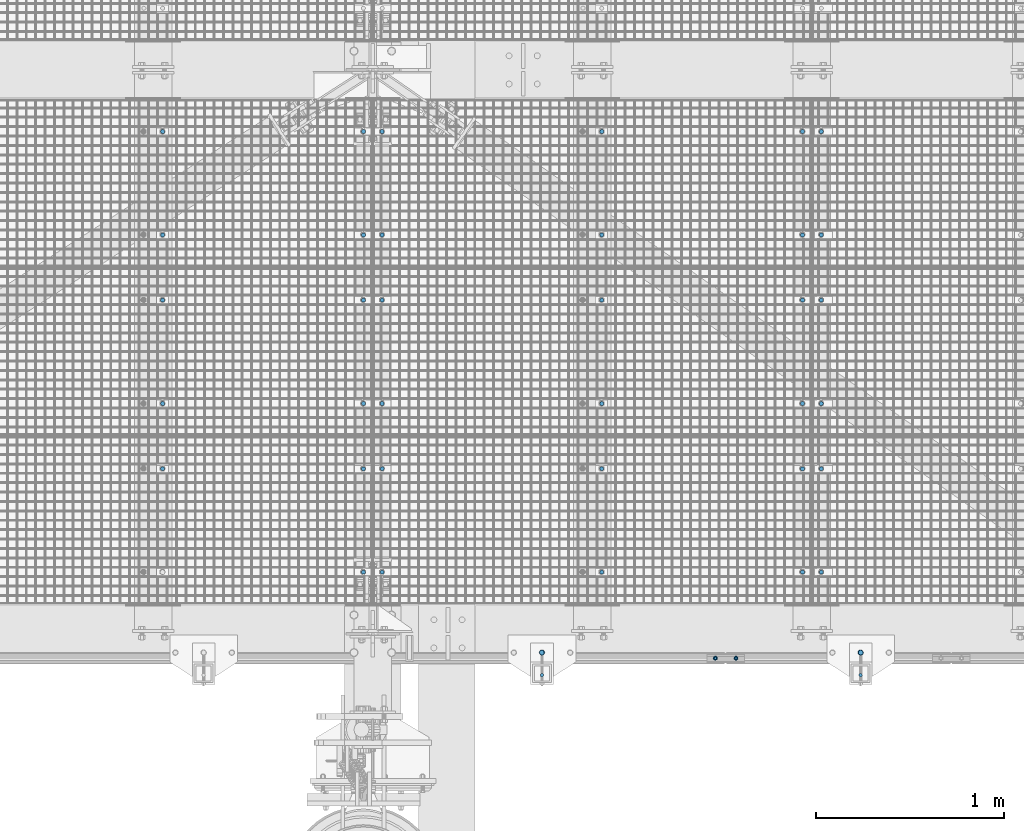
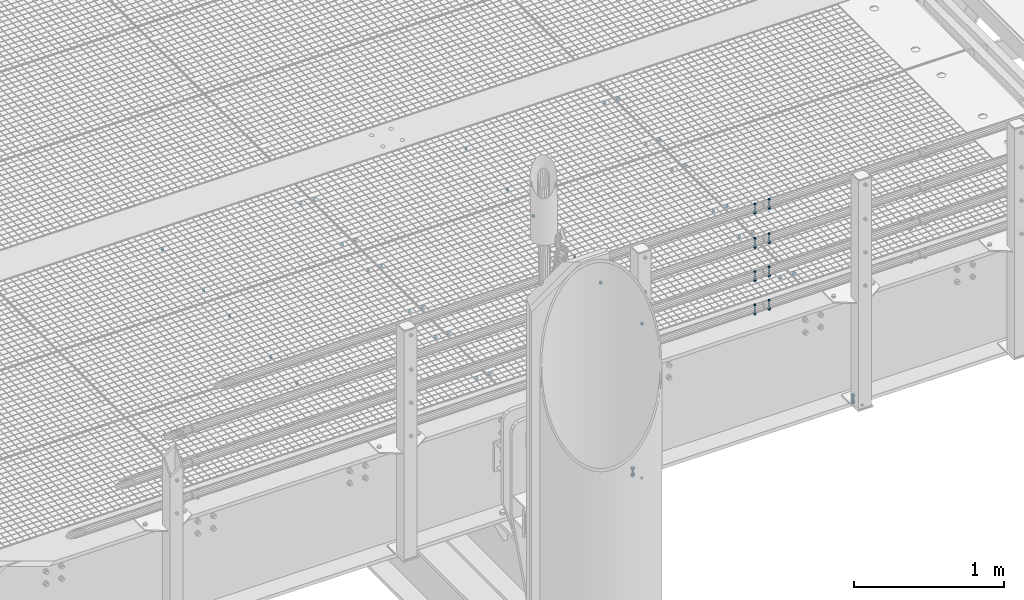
# One storey, part 67 of 1530: 47 mechanical fasteners.
"""IFC2X3 building model written with IfcOpenShell, lengths in millimetres."""

from ifc_helpers import new_model, si_unit, frame, origin_with_axes, place, context, subcontext, project, spatial, faceted_brep, source, transform, mapped, material, type_object, element, save


model = new_model("IFC2X3")

# Units and contexts
model_context = context("Model", 3, precision=1e-05, world=origin_with_axes())
body_context = subcontext(model_context, "Body", "Model", "MODEL_VIEW")
ifc_project = project(units=[si_unit("LENGTHUNIT", "METRE", prefix="MILLI"), si_unit("AREAUNIT", "SQUARE_METRE"), si_unit("VOLUMEUNIT", "CUBIC_METRE"), si_unit("MASSUNIT", "GRAM", prefix="KILO"), si_unit("TIMEUNIT", "SECOND"), si_unit("PLANEANGLEUNIT", "RADIAN"), si_unit("SOLIDANGLEUNIT", "STERADIAN"), si_unit("THERMODYNAMICTEMPERATUREUNIT", "DEGREE_CELSIUS"), si_unit("LUMINOUSINTENSITYUNIT", "LUMEN")], contexts=[model_context])

# Site, building, storey
site_placement = place(None, origin_with_axes())
site = spatial("IfcSite", under=ifc_project, at=site_placement, Name="Brattvåg", CompositionType="ELEMENT")
building_placement = place(site_placement, origin_with_axes())
building = spatial("IfcBuilding", under=site, at=building_placement, Name="Undefined", CompositionType="ELEMENT")
storey_placement = place(building_placement, origin_with_axes())
storey = spatial("IfcBuildingStorey", under=building, at=storey_placement, Name="Undefined", CompositionType="ELEMENT", Elevation=0.0)

# Mechanical fasteners
ifc_material = material(Name="8")
mechanical_fastener_type = type_object("IfcMechanicalFastenerType", Name="Bolt assembly")
shared_shape_1 = source(origin_with_axes(), body_context, "Body", "Brep", [
    faceted_brep([(11.0, -4.99999999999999, 0.0), (9.52627944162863, -4.99999999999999, 5.50000000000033), (5.49999999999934, -4.99999999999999, 9.5262794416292), (-1.13996957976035e-12, -4.99999999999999, 11.0), (-5.50000000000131, -4.99999999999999, 9.52627944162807), (-9.52627944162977, -4.99999999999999, 5.49999999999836), (-11.0, -4.99999999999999, -2.27993915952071e-12), (-9.5262794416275, -4.99999999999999, -5.5000000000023), (-5.49999999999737, -4.99999999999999, -9.52627944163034), (3.40769628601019e-12, -4.99999999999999, -11.0), (5.50000000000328, -4.99999999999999, -9.52627944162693), (9.52627944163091, -4.99999999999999, -5.49999999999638), (9.52627944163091, 10.1, -5.49999999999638), (5.50000000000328, 10.1, -9.52627944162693), (3.40769628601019e-12, 10.1, -11.0), (-5.49999999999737, 10.1, -9.52627944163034), (-9.5262794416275, 10.1, -5.5000000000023), (-11.0, 10.1, -2.27993915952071e-12), (-9.52627944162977, 10.1, 5.49999999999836), (-5.50000000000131, 10.1, 9.52627944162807), (-1.13996957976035e-12, 10.1, 11.0), (5.49999999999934, 10.1, 9.5262794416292), (9.52627944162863, 10.1, 5.50000000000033), (11.0, 10.1, 0.0)], [[[0, 1, 2, 3, 4, 5, 6, 7, 8, 9, 10, 11]], [[12, 13, 14, 15, 16, 17, 18, 19, 20, 21, 22, 23]], [[0, 23, 22, 1]], [[1, 22, 21, 2]], [[2, 21, 20, 3]], [[3, 20, 19, 4]], [[4, 19, 18, 5]], [[5, 18, 17, 6]], [[6, 17, 16, 7]], [[7, 16, 15, 8]], [[8, 15, 14, 9]], [[9, 14, 13, 10]], [[10, 13, 12, 11]], [[11, 12, 23, 0]]]),
])
for number, where, z_axis, x_axis, name in (
    (1, (14636.0047793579, 2121.91931152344, -35.0), (0.0, 1.0, 0.0), (1.0, 0.0, 0.0), "Bolt assembly"),
    (2, (14636.0047793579, 2671.99411010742, -35.0), (0.0, 1.0, 0.0), (1.0, 0.0, 0.0), "Bolt assembly"),
    (3, (14636.0047793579, 1224.91931152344, -35.0), (0.0, 1.0, 0.0), (1.0, 0.0, 0.0), "Bolt assembly"),
    (4, (14636.0047793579, 1774.99411010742, -35.0), (0.0, 1.0, 0.0), (1.0, 0.0, 0.0), "Bolt assembly"),
    (5, (14636.0047793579, 327.919311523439, -35.0), (0.0, 1.0, 0.0), (1.0, 0.0, 0.0), "Bolt assembly"),
    (6, (14636.0047793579, 877.994110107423, -35.0), (0.0, 1.0, 0.0), (1.0, 0.0, 0.0), "Bolt assembly"),
    (7, (12300.0047793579, 2121.98931152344, -35.0), (0.0, 1.0, 0.0), (1.0, 0.0, 0.0), "Bolt assembly"),
    (8, (12300.0047793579, 2671.99411010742, -35.0), (0.0, 1.0, 0.0), (1.0, 0.0, 0.0), "Bolt assembly"),
    (9, (14536.0148773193, 2671.99411010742, -35.0), (0.0, -1.0, 0.0), (-1.0, 1.99999855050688e-09, 0.0), "Bolt assembly"),
    (10, (14536.0148773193, 2121.9904864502, -35.0), (0.0, -1.0, 0.0), (-1.0, 1.99999855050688e-09, 0.0), "Bolt assembly"),
    (11, (13468.0145606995, 2671.99565124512, -35.0), (0.0, -1.0, 0.0), (-1.0, 1.99999855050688e-09, 0.0), "Bolt assembly"),
    (12, (13468.0119254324, 2121.99, -35.0), (0.0, -1.0, 0.0), (-1.0, 1.99999855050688e-09, 0.0), "Bolt assembly"),
    (13, (12300.0047793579, 1224.98931152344, -35.0), (0.0, 1.0, 0.0), (1.0, 0.0, 0.0), "Bolt assembly"),
    (14, (12300.0047793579, 1774.99411010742, -35.0), (0.0, 1.0, 0.0), (1.0, 0.0, 0.0), "Bolt assembly"),
    (15, (14536.0148773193, 1774.99411010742, -35.0), (0.0, -1.0, 0.0), (-1.0, 1.99999855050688e-09, 0.0), "Bolt assembly"),
    (16, (14536.0148773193, 1224.9904864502, -35.0), (0.0, -1.0, 0.0), (-1.0, 1.99999855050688e-09, 0.0), "Bolt assembly"),
    (17, (13468.0145606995, 1774.99565124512, -35.0), (0.0, -1.0, 0.0), (-1.0, 1.99999855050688e-09, 0.0), "Bolt assembly"),
    (18, (13468.0119254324, 1224.99, -35.0), (0.0, -1.0, 0.0), (-1.0, 1.99999855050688e-09, 0.0), "Bolt assembly"),
    (19, (12300.0047793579, 327.989311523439, -35.0), (0.0, 1.0, 0.0), (1.0, 0.0, 0.0), "Bolt assembly"),
    (20, (12300.0047793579, 877.994110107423, -35.0), (0.0, 1.0, 0.0), (1.0, 0.0, 0.0), "Bolt assembly"),
    (21, (14536.0148773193, 877.994110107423, -35.0), (0.0, -1.0, 0.0), (-1.0, 1.99999855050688e-09, 0.0), "Bolt assembly"),
    (22, (14536.0148773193, 327.990486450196, -35.0), (0.0, -1.0, 0.0), (-1.0, 1.99999855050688e-09, 0.0), "Bolt assembly"),
    (23, (13468.0145606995, 877.995651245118, -35.0), (0.0, -1.0, 0.0), (-1.0, 1.99999855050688e-09, 0.0), "Bolt assembly"),
    (24, (13468.0119254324, 327.99, -35.0), (0.0, -1.0, 0.0), (-1.0, 1.99999855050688e-09, 0.0), "Bolt assembly"),
    (25, (12200.0148773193, 2671.99411010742, -35.0), (0.0, -1.0, 0.0), (-1.0, 1.99999855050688e-09, 0.0), "Bolt assembly"),
    (26, (12200.0148773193, 2121.9904864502, -35.0), (0.0, -1.0, 0.0), (-1.0, 1.99999855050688e-09, 0.0), "Bolt assembly"),
    (27, (11132.0145606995, 2671.99565124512, -35.0), (0.0, -1.0, 0.0), (-1.0, 1.99999855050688e-09, 0.0), "Bolt assembly"),
    (28, (11132.0119254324, 2121.99, -35.0), (0.0, -1.0, 0.0), (-1.0, 1.99999855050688e-09, 0.0), "Bolt assembly"),
    (29, (12200.0148773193, 1774.99411010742, -35.0), (0.0, -1.0, 0.0), (-1.0, 1.99999855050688e-09, 0.0), "Bolt assembly"),
    (30, (12200.0148773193, 1224.9904864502, -35.0), (0.0, -1.0, 0.0), (-1.0, 1.99999855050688e-09, 0.0), "Bolt assembly"),
    (31, (11132.0145606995, 1774.99565124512, -35.0), (0.0, -1.0, 0.0), (-1.0, 1.99999855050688e-09, 0.0), "Bolt assembly"),
    (32, (11132.0119254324, 1224.99, -35.0), (0.0, -1.0, 0.0), (-1.0, 1.99999855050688e-09, 0.0), "Bolt assembly"),
    (33, (12200.0148773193, 877.994110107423, -35.0), (0.0, -1.0, 0.0), (-1.0, 1.99999855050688e-09, 0.0), "Bolt assembly"),
    (34, (12200.0148773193, 327.990486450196, -35.0), (0.0, -1.0, 0.0), (-1.0, 1.99999855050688e-09, 0.0), "Bolt assembly"),
    (35, (11132.0145606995, 877.995651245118, -35.0), (0.0, -1.0, 0.0), (-1.0, 1.99999855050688e-09, 0.0), "Bolt assembly"),
):
    element("IfcMechanicalFastener", number, at=place(storey_placement, frame(where, z_axis=z_axis, x_axis=x_axis)), inside=storey, type_object=mechanical_fastener_type, material=ifc_material, Name=name, NominalDiameter=20.0, NominalLength=15.0, context=body_context, shape_type="MappedRepresentation", body=[
        mapped(shared_shape_1, transform((0.0, 0.0, 0.0))),
    ])
shared_shape_2 = source(origin_with_axes(), body_context, "Body", "Brep", [
    faceted_brep([(9.0, -0.000108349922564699, 0.0), (7.79422863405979, -0.000108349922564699, 4.50000000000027), (4.49999999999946, -0.000108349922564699, 7.79422863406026), (-9.3270238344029e-13, -0.000108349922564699, 9.0), (-4.50000000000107, -0.000108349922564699, 7.79422863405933), (-7.79422863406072, -0.000108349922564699, 4.49999999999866), (-9.0, -0.000108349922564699, -1.86540476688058e-12), (-7.79422863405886, -0.000108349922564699, -4.50000000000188), (-4.49999999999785, -0.000108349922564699, -7.79422863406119), (2.78811514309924e-12, -0.000108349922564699, -9.0), (4.50000000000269, -0.000108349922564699, -7.7942286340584), (7.79422863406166, -0.000108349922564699, -4.49999999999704), (7.79422863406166, 10.0998916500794, -4.49999999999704), (4.50000000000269, 10.0998916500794, -7.7942286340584), (2.78811514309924e-12, 10.0998916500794, -9.0), (-4.49999999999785, 10.0998916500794, -7.79422863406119), (-7.79422863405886, 10.0998916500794, -4.50000000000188), (-9.0, 10.0998916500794, -1.86540476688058e-12), (-7.79422863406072, 10.0998916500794, 4.49999999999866), (-4.50000000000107, 10.0998916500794, 7.79422863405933), (-9.3270238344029e-13, 10.0998916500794, 9.0), (4.49999999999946, 10.0998916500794, 7.79422863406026), (7.79422863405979, 10.0998916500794, 4.50000000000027), (9.0, 10.0998916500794, 0.0)], [[[0, 1, 2, 3, 4, 5, 6, 7, 8, 9, 10, 11]], [[12, 13, 14, 15, 16, 17, 18, 19, 20, 21, 22, 23]], [[0, 23, 22, 1]], [[1, 22, 21, 2]], [[2, 21, 20, 3]], [[3, 20, 19, 4]], [[4, 19, 18, 5]], [[5, 18, 17, 6]], [[6, 17, 16, 7]], [[7, 16, 15, 8]], [[8, 15, 14, 9]], [[9, 14, 13, 10]], [[10, 13, 12, 11]], [[11, 12, 23, 0]]]),
])
for number, where, z_axis, x_axis, name in (
    (36, (14845.0001602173, -219.999950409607, -845.000278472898), (-1.0, 1.99999855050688e-09, 0.0), (0.0, 0.999999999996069, 2.80400000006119e-06), "Bolt assembly"),
    (37, (13150.0001602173, -219.999950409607, -845.000278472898), (-1.0, 1.99999855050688e-09, 0.0), (0.0, 0.999999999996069, 2.80400000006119e-06), "Bolt assembly"),
):
    element("IfcMechanicalFastener", number, at=place(storey_placement, frame(where, z_axis=z_axis, x_axis=x_axis)), inside=storey, type_object=mechanical_fastener_type, material=ifc_material, Name=name, NominalDiameter=16.0, NominalLength=10.0001087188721, context=body_context, shape_type="MappedRepresentation", body=[
        mapped(shared_shape_2, transform((0.0, 0.0, 0.0))),
    ])
shared_shape_3 = source(origin_with_axes(), body_context, "Body", "Brep", [
    faceted_brep([(6.49435320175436, -7.50000000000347, 0.0), (4.59220118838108, -7.50000000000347, 4.59220118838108), (3.97664443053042e-16, -7.50000000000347, 6.49435320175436), (-4.59220118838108, -7.50000000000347, 4.59220118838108), (-6.49435320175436, -7.50000000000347, 7.95328886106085e-16), (-4.59220118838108, -7.50000000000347, -4.59220118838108), (-1.19299332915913e-15, -7.50000000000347, -6.49435320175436), (4.59220118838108, -7.50000000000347, -4.59220118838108), (7.34846922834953, -3.46744855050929e-12, -7.34846922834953), (-1.90903542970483e-15, -3.46744855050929e-12, -10.3923048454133), (-7.34846922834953, -3.46744855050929e-12, -7.34846922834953), (-10.3923048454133, 3.46808519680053e-07, 1.27269028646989e-15), (-7.34846922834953, -3.46744855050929e-12, 7.34846922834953), (6.36345143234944e-16, -3.46744855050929e-12, 10.3923048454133), (7.34846922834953, -3.46744855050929e-12, 7.34846922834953), (10.3923048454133, 3.46808519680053e-07, 0.0), (6.0, 3.46808519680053e-07, 0.0), (5.19615242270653, 3.46808519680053e-07, 3.00000000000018), (2.99999999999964, 3.46808519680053e-07, 5.19615242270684), (-6.21801588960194e-13, 3.46808519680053e-07, 6.0), (-3.00000000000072, 3.46808519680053e-07, 5.19615242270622), (-5.19615242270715, 3.46808519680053e-07, 2.9999999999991), (-6.0, 3.46808519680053e-07, -1.24360317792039e-12), (-5.19615242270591, 3.46808519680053e-07, -3.00000000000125), (-2.99999999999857, 3.46808519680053e-07, -5.19615242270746), (1.85874342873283e-12, 3.46808519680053e-07, -6.0), (3.00000000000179, 3.46808519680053e-07, -5.1961524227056), (5.19615242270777, 3.46808519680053e-07, -2.99999999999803), (5.19615242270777, 79.9999999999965, -2.99999999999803), (3.00000000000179, 79.9999999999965, -5.1961524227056), (1.85874342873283e-12, 79.9999999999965, -6.0), (-2.99999999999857, 79.9999999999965, -5.19615242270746), (-5.19615242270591, 79.9999999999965, -3.00000000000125), (-6.0, 79.9999999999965, -1.24360317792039e-12), (-5.19615242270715, 79.9999999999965, 2.9999999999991), (-3.00000000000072, 79.9999999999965, 5.19615242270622), (-6.21801588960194e-13, 79.9999999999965, 6.0), (2.99999999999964, 79.9999999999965, 5.19615242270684), (5.19615242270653, 79.9999999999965, 3.00000000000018), (6.0, 79.9999999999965, 0.0), (12.0, 60.2988956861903, 0.0), (10.3923048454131, 60.2988956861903, 6.00000000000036), (5.99999999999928, 60.2988956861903, 10.3923048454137), (-1.24360317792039e-12, 60.2988956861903, 12.0), (-6.00000000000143, 60.2988956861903, 10.3923048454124), (-10.3923048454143, 60.2988956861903, 5.99999999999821), (-12.0, 60.2988956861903, -2.48720635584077e-12), (-10.3923048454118, 60.2988956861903, -6.00000000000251), (-5.99999999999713, 60.2988956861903, -10.3923048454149), (3.71748685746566e-12, 60.2988956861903, -12.0), (6.00000000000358, 60.2988956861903, -10.3923048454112), (10.3923048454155, 60.2988956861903, -5.99999999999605), (10.3923048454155, 62.7988956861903, -5.99999999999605), (6.00000000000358, 62.7988956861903, -10.3923048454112), (3.71748685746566e-12, 62.7988956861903, -12.0), (-5.99999999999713, 62.7988956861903, -10.3923048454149), (-10.3923048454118, 62.7988956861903, -6.00000000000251), (-12.0, 62.7988956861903, -2.48720635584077e-12), (-10.3923048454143, 62.7988956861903, 5.99999999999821), (-6.00000000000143, 62.7988956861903, 10.3923048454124), (-1.24360317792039e-12, 62.7988956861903, 12.0), (5.99999999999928, 62.7988956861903, 10.3923048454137), (10.3923048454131, 62.7988956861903, 6.00000000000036), (12.0, 62.7988956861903, 0.0), (10.9696551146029, 62.7988956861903, 0.0), (5.48482755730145, 62.7988956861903, 9.5), (-5.48482755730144, 62.7988956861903, 9.5), (-10.9696551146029, 62.7988956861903, 1.34339530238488e-15), (-5.48482755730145, 62.7988956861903, -9.5), (5.48482755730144, 62.7988956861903, -9.5), (5.48482755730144, 73.5988958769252, -9.5), (-5.48482755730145, 73.5988958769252, -9.5), (-10.9696551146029, 73.5988958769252, 1.34339530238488e-15), (-5.48482755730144, 73.5988958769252, 9.5), (5.48482755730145, 73.5988958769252, 9.5), (10.9696551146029, 73.5988958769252, 0.0)], [[[0, 1, 2, 3, 4, 5, 6, 7]], [[8, 9, 10, 11, 12, 13, 14, 15]], [[0, 15, 14, 1]], [[1, 14, 13, 2]], [[2, 13, 12, 3]], [[3, 12, 11, 4]], [[4, 11, 10, 5]], [[5, 10, 9, 6]], [[6, 9, 8, 7]], [[7, 8, 15, 0]], [[16, 17, 18, 19, 20, 21, 22, 23, 24, 25, 26, 27]], [[28, 29, 30, 31, 32, 33, 34, 35, 36, 37, 38, 39]], [[16, 39, 38, 17]], [[17, 38, 37, 18]], [[18, 37, 36, 19]], [[19, 36, 35, 20]], [[20, 35, 34, 21]], [[21, 34, 33, 22]], [[22, 33, 32, 23]], [[23, 32, 31, 24]], [[24, 31, 30, 25]], [[25, 30, 29, 26]], [[26, 29, 28, 27]], [[27, 28, 39, 16]], [[40, 41, 42, 43, 44, 45, 46, 47, 48, 49, 50, 51]], [[52, 53, 54, 55, 56, 57, 58, 59, 60, 61, 62, 63]], [[40, 63, 62, 41]], [[41, 62, 61, 42]], [[42, 61, 60, 43]], [[43, 60, 59, 44]], [[44, 59, 58, 45]], [[45, 58, 57, 46]], [[46, 57, 56, 47]], [[47, 56, 55, 48]], [[48, 55, 54, 49]], [[49, 54, 53, 50]], [[50, 53, 52, 51]], [[51, 52, 63, 40]], [[64, 65, 66, 67, 68, 69]], [[70, 71, 72, 73, 74, 75]], [[64, 75, 74, 65]], [[65, 74, 73, 66]], [[66, 73, 72, 67]], [[67, 72, 71, 68]], [[68, 71, 70, 69]], [[69, 70, 75, 64]]]),
    faceted_brep([(6.5, 0.100000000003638, 0.0), (5.62916512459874, 0.100000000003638, 3.25000000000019), (3.24999999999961, 0.100000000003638, 5.62916512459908), (-6.7361838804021e-13, 0.100000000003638, 6.5), (-3.25000000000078, 0.100000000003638, 5.6291651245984), (-5.62916512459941, 0.100000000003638, 3.24999999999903), (-6.5, 0.100000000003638, -1.34723677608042e-12), (-5.62916512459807, 0.100000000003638, -3.25000000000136), (-3.24999999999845, 0.100000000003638, -5.62916512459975), (2.01363871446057e-12, 0.100000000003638, -6.5), (3.25000000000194, 0.100000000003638, -5.62916512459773), (5.62916512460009, 0.100000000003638, -3.24999999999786), (5.62916512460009, 60.3988956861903, -3.24999999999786), (3.25000000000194, 60.3988956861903, -5.62916512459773), (2.01363871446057e-12, 60.3988956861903, -6.5), (-3.24999999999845, 60.3988956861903, -5.62916512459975), (-5.62916512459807, 60.3988956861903, -3.25000000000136), (-6.5, 60.3988956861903, -1.34723677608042e-12), (-5.62916512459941, 60.3988956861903, 3.24999999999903), (-3.25000000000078, 60.3988956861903, 5.6291651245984), (-6.7361838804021e-13, 60.3988956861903, 6.5), (3.24999999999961, 60.3988956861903, 5.62916512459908), (5.62916512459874, 60.3988956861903, 3.25000000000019), (6.5, 60.3988956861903, 0.0), (6.5, 4.25026510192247, 0.0), (5.62916512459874, 4.25026510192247, 3.25000000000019), (3.24999999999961, 4.25026510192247, 5.62916512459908), (-6.7361838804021e-13, 4.25026510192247, 6.5), (-3.25000000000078, 4.25026510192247, 5.6291651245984), (-5.62916512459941, 4.25026510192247, 3.24999999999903), (-6.5, 4.25026510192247, -1.34723677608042e-12), (-5.62916512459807, 4.25026510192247, -3.25000000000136), (-3.24999999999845, 4.25026510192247, -5.62916512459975), (2.01363871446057e-12, 4.25026510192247, -6.5), (3.25000000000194, 4.25026510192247, -5.62916512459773), (5.62916512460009, 4.25026510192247, -3.24999999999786), (5.62916512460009, 55.3491717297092, -3.24999999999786), (3.25000000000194, 55.3491717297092, -5.62916512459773), (2.01363871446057e-12, 55.3491717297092, -6.5), (-3.24999999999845, 55.3491717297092, -5.62916512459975), (-5.62916512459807, 55.3491717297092, -3.25000000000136), (-6.5, 55.3491717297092, -1.34723677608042e-12), (-5.62916512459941, 55.3491717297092, 3.24999999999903), (-3.25000000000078, 55.3491717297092, 5.6291651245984), (-6.7361838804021e-13, 55.3491717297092, 6.5), (3.24999999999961, 55.3491717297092, 5.62916512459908), (5.62916512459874, 55.3491717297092, 3.25000000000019), (6.5, 55.3491717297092, 0.0)], [[[0, 1, 2, 3, 4, 5, 6, 7, 8, 9, 10, 11]], [[12, 13, 14, 15, 16, 17, 18, 19, 20, 21, 22, 23]], [[0, 23, 22, 1]], [[1, 22, 21, 2]], [[2, 21, 20, 3]], [[3, 20, 19, 4]], [[4, 19, 18, 5]], [[5, 18, 17, 6]], [[6, 17, 16, 7]], [[7, 16, 15, 8]], [[8, 15, 14, 9]], [[9, 14, 13, 10]], [[10, 13, 12, 11]], [[11, 12, 23, 0]], [[24, 25, 26, 27, 28, 29, 30, 31, 32, 33, 34, 35]], [[36, 37, 38, 39, 40, 41, 42, 43, 44, 45, 46, 47]], [[24, 47, 46, 25]], [[25, 46, 45, 26]], [[26, 45, 44, 27]], [[27, 44, 43, 28]], [[28, 43, 42, 29]], [[29, 42, 41, 30]], [[30, 41, 40, 31]], [[31, 40, 39, 32]], [[32, 39, 38, 33]], [[33, 38, 37, 34]], [[34, 37, 36, 35]], [[35, 36, 47, 24]]]),
])
for number, where, z_axis, x_axis, name in (
    (38, (14072.0001373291, -129.849880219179, 179.7000579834), (-1.0, 1.99999855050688e-09, 0.0), (0.0, 0.999999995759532, -9.2091999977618e-05), "Bolt assembly"),
    (39, (14072.0001373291, -129.849880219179, 449.7000579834), (-1.0, 1.99999855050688e-09, 0.0), (0.0, 0.999999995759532, -9.2091999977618e-05), "Bolt assembly"),
    (40, (14072.0001373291, -129.849880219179, 719.7000579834), (-1.0, 1.99999855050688e-09, 0.0), (0.0, 0.999999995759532, -9.2091999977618e-05), "Bolt assembly"),
    (41, (14181.9998626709, -129.849880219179, 179.7000579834), (-1.0, 1.99999855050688e-09, 0.0), (0.0, 0.999999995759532, -9.2091999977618e-05), "Bolt assembly"),
    (42, (14181.9998626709, -129.849880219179, 449.7000579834), (-1.0, 1.99999855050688e-09, 0.0), (0.0, 0.999999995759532, -9.2091999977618e-05), "Bolt assembly"),
    (43, (14181.9998626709, -129.849880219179, 719.7000579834), (-1.0, 1.99999855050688e-09, 0.0), (0.0, 0.999999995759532, -9.2091999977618e-05), "Bolt assembly"),
    (44, (14072.0001373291, -129.849880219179, 999.7000579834), (-1.0, 1.99999855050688e-09, 0.0), (0.0, 0.999999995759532, -9.2091999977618e-05), "Bolt assembly"),
    (45, (14181.9998626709, -129.849880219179, 999.7000579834), (-1.0, 1.99999855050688e-09, 0.0), (0.0, 0.999999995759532, -9.2091999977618e-05), "Bolt assembly"),
):
    element("IfcMechanicalFastener", number, at=place(storey_placement, frame(where, z_axis=z_axis, x_axis=x_axis)), inside=storey, type_object=mechanical_fastener_type, material=ifc_material, Name=name, NominalDiameter=12.0, NominalLength=80.0, context=body_context, shape_type="MappedRepresentation", body=[
        mapped(shared_shape_3, transform((0.0, 0.0, 0.0))),
    ])
shared_shape_4 = source(origin_with_axes(), body_context, "Body", "Brep", [
    faceted_brep([(13.856406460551, -12.9998916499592, 0.0), (6.92820323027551, -12.9998916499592, 12.0), (-6.92820323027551, -12.9998916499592, 12.0), (-13.856406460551, -12.9998916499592, 1.69692038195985e-15), (-6.92820323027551, -12.9998916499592, -12.0), (6.9282032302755, -12.9998916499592, -12.0), (6.9282032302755, -2.99989164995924, -12.0), (-6.92820323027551, -2.99989164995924, -12.0), (-13.856406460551, -2.99989164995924, 1.69692038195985e-15), (-6.92820323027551, -2.99989164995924, 12.0), (6.92820323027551, -2.99989164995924, 12.0), (13.856406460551, -2.99989164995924, 0.0), (8.0, -2.99989164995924, 0.0), (6.92820323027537, -2.99989164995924, 4.00000000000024), (3.99999999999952, -2.99989164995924, 6.92820323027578), (-8.29068785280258e-13, -2.99989164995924, 8.0), (-4.00000000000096, -2.99989164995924, 6.92820323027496), (-6.9282032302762, -2.99989164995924, 3.99999999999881), (-8.0, -2.99989164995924, -1.65813757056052e-12), (-6.92820323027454, -2.99989164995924, -4.00000000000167), (-3.99999999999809, -2.99989164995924, -6.92820323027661), (2.47832457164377e-12, -2.99989164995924, -8.0), (4.00000000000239, -2.99989164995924, -6.92820323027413), (6.92820323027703, -2.99989164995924, -3.99999999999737), (6.92820323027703, 67.0001083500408, -3.99999999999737), (4.00000000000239, 67.0001083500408, -6.92820323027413), (2.47832457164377e-12, 67.0001083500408, -8.0), (-3.99999999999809, 67.0001083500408, -6.92820323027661), (-6.92820323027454, 67.0001083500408, -4.00000000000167), (-8.0, 67.0001083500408, -1.65813757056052e-12), (-6.9282032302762, 67.0001083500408, 3.99999999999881), (-4.00000000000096, 67.0001083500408, 6.92820323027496), (-8.29068785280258e-13, 67.0001083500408, 8.0), (3.99999999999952, 67.0001083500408, 6.92820323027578), (6.92820323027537, 67.0001083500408, 4.00000000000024), (8.0, 67.0001083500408, 0.0), (15.0, -2.99989164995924, 0.0), (12.9903810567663, -2.99989164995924, 7.50000000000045), (7.4999999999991, -2.99989164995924, 12.9903810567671), (-1.55450397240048e-12, -2.99989164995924, 15.0), (-7.50000000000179, -2.99989164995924, 12.9903810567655), (-12.9903810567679, -2.99989164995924, 7.49999999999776), (-15.0, -2.99989164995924, -3.10900794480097e-12), (-12.9903810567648, -2.99989164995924, -7.50000000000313), (-7.49999999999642, -2.99989164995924, -12.9903810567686), (4.64685857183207e-12, -2.99989164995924, -15.0), (7.50000000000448, -2.99989164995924, -12.990381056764), (12.9903810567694, -2.99989164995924, -7.49999999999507), (12.9903810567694, 0.000108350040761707, -7.49999999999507), (7.50000000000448, 0.000108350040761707, -12.990381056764), (4.64685857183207e-12, 0.000108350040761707, -15.0), (-7.49999999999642, 0.000108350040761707, -12.9903810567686), (-12.9903810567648, 0.000108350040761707, -7.50000000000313), (-15.0, 0.000108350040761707, -3.10900794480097e-12), (-12.9903810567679, 0.000108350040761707, 7.49999999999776), (-7.50000000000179, 0.000108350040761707, 12.9903810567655), (-1.55450397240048e-12, 0.000108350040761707, 15.0), (7.4999999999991, 0.000108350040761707, 12.9903810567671), (12.9903810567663, 0.000108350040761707, 7.50000000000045), (15.0, 0.000108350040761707, 0.0), (15.0, 45.0001982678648, 0.0), (12.9903810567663, 45.0001982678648, 7.50000000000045), (7.4999999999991, 45.0001982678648, 12.9903810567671), (-1.55450397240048e-12, 45.0001982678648, 15.0), (-7.50000000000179, 45.0001982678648, 12.9903810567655), (-12.9903810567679, 45.0001982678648, 7.49999999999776), (-15.0, 45.0001982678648, -3.10900794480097e-12), (-12.9903810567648, 45.0001982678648, -7.50000000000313), (-7.49999999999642, 45.0001982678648, -12.9903810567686), (4.64685857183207e-12, 45.0001982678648, -15.0), (7.50000000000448, 45.0001982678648, -12.990381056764), (12.9903810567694, 45.0001982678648, -7.49999999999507), (12.9903810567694, 48.0001982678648, -7.49999999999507), (7.50000000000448, 48.0001982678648, -12.990381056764), (4.64685857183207e-12, 48.0001982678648, -15.0), (-7.49999999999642, 48.0001982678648, -12.9903810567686), (-12.9903810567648, 48.0001982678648, -7.50000000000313), (-15.0, 48.0001982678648, -3.10900794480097e-12), (-12.9903810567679, 48.0001982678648, 7.49999999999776), (-7.50000000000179, 48.0001982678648, 12.9903810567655), (-1.55450397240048e-12, 48.0001982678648, 15.0), (7.4999999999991, 48.0001982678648, 12.9903810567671), (12.9903810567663, 48.0001982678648, 7.50000000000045), (15.0, 48.0001982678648, 0.0), (13.856406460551, 48.0001982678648, 0.0), (6.92820323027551, 48.0001982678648, 12.0), (-6.92820323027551, 48.0001982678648, 12.0), (-13.856406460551, 48.0001982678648, 1.69692038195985e-15), (-6.92820323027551, 48.0001982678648, -12.0), (6.9282032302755, 48.0001982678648, -12.0), (6.9282032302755, 62.8001984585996, -12.0), (-6.92820323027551, 62.8001984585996, -12.0), (-13.856406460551, 62.8001984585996, 1.69692038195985e-15), (-6.92820323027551, 62.8001984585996, 12.0), (6.92820323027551, 62.8001984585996, 12.0), (13.856406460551, 62.8001984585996, 0.0)], [[[0, 1, 2, 3, 4, 5]], [[6, 7, 8, 9, 10, 11]], [[0, 11, 10, 1]], [[1, 10, 9, 2]], [[2, 9, 8, 3]], [[3, 8, 7, 4]], [[4, 7, 6, 5]], [[5, 6, 11, 0]], [[12, 13, 14, 15, 16, 17, 18, 19, 20, 21, 22, 23]], [[24, 25, 26, 27, 28, 29, 30, 31, 32, 33, 34, 35]], [[12, 35, 34, 13]], [[13, 34, 33, 14]], [[14, 33, 32, 15]], [[15, 32, 31, 16]], [[16, 31, 30, 17]], [[17, 30, 29, 18]], [[18, 29, 28, 19]], [[19, 28, 27, 20]], [[20, 27, 26, 21]], [[21, 26, 25, 22]], [[22, 25, 24, 23]], [[23, 24, 35, 12]], [[36, 37, 38, 39, 40, 41, 42, 43, 44, 45, 46, 47]], [[48, 49, 50, 51, 52, 53, 54, 55, 56, 57, 58, 59]], [[36, 59, 58, 37]], [[37, 58, 57, 38]], [[38, 57, 56, 39]], [[39, 56, 55, 40]], [[40, 55, 54, 41]], [[41, 54, 53, 42]], [[42, 53, 52, 43]], [[43, 52, 51, 44]], [[44, 51, 50, 45]], [[45, 50, 49, 46]], [[46, 49, 48, 47]], [[47, 48, 59, 36]], [[60, 61, 62, 63, 64, 65, 66, 67, 68, 69, 70, 71]], [[72, 73, 74, 75, 76, 77, 78, 79, 80, 81, 82, 83]], [[60, 83, 82, 61]], [[61, 82, 81, 62]], [[62, 81, 80, 63]], [[63, 80, 79, 64]], [[64, 79, 78, 65]], [[65, 78, 77, 66]], [[66, 77, 76, 67]], [[67, 76, 75, 68]], [[68, 75, 74, 69]], [[69, 74, 73, 70]], [[70, 73, 72, 71]], [[71, 72, 83, 60]], [[84, 85, 86, 87, 88, 89]], [[90, 91, 92, 93, 94, 95]], [[84, 95, 94, 85]], [[85, 94, 93, 86]], [[86, 93, 92, 87]], [[87, 92, 91, 88]], [[88, 91, 90, 89]], [[89, 90, 95, 84]]]),
    faceted_brep([(9.0, 0.100108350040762, 0.0), (7.79422863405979, 0.100108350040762, 4.50000000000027), (4.49999999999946, 0.100108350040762, 7.79422863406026), (-9.3270238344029e-13, 0.100108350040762, 9.0), (-4.50000000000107, 0.100108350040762, 7.79422863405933), (-7.79422863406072, 0.100108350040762, 4.49999999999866), (-9.0, 0.100108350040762, -1.86540476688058e-12), (-7.79422863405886, 0.100108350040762, -4.50000000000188), (-4.49999999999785, 0.100108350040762, -7.79422863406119), (2.78811514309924e-12, 0.100108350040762, -9.0), (4.50000000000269, 0.100108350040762, -7.7942286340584), (7.79422863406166, 0.100108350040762, -4.49999999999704), (7.79422863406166, 10.10010835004, -4.49999999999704), (4.50000000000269, 10.10010835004, -7.7942286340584), (2.78811514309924e-12, 10.10010835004, -9.0), (-4.49999999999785, 10.10010835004, -7.79422863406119), (-7.79422863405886, 10.10010835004, -4.50000000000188), (-9.0, 10.10010835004, -1.86540476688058e-12), (-7.79422863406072, 10.10010835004, 4.49999999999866), (-4.50000000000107, 10.10010835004, 7.79422863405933), (-9.3270238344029e-13, 10.10010835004, 9.0), (4.49999999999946, 10.10010835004, 7.79422863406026), (7.79422863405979, 10.10010835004, 4.50000000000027), (9.0, 10.10010835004, 0.0), (9.0, 10.0002383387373, 0.0), (7.79422863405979, 10.0002383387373, 4.50000000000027), (4.49999999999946, 10.0002383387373, 7.79422863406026), (-9.3270238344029e-13, 10.0002383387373, 9.0), (-4.50000000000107, 10.0002383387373, 7.79422863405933), (-7.79422863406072, 10.0002383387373, 4.49999999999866), (-9.0, 10.0002383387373, -1.86540476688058e-12), (-7.79422863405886, 10.0002383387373, -4.50000000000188), (-4.49999999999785, 10.0002383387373, -7.79422863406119), (2.78811514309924e-12, 10.0002383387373, -9.0), (4.50000000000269, 10.0002383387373, -7.7942286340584), (7.79422863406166, 10.0002383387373, -4.49999999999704), (7.79422863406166, 15.000238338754, -4.49999999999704), (4.50000000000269, 15.000238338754, -7.7942286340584), (2.78811514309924e-12, 15.000238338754, -9.0), (-4.49999999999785, 15.000238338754, -7.79422863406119), (-7.79422863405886, 15.000238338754, -4.50000000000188), (-9.0, 15.000238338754, -1.86540476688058e-12), (-7.79422863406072, 15.000238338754, 4.49999999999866), (-4.50000000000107, 15.000238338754, 7.79422863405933), (-9.3270238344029e-13, 15.000238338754, 9.0), (4.49999999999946, 15.000238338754, 7.79422863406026), (7.79422863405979, 15.000238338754, 4.50000000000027), (9.0, 15.000238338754, 0.0), (9.0, 14.9001982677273, 0.0), (7.79422863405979, 14.9001982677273, 4.50000000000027), (4.49999999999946, 14.9001982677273, 7.79422863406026), (-9.3270238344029e-13, 14.9001982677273, 9.0), (-4.50000000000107, 14.9001982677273, 7.79422863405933), (-7.79422863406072, 14.9001982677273, 4.49999999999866), (-9.0, 14.9001982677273, -1.86540476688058e-12), (-7.79422863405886, 14.9001982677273, -4.50000000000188), (-4.49999999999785, 14.9001982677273, -7.79422863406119), (2.78811514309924e-12, 14.9001982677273, -9.0), (4.50000000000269, 14.9001982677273, -7.7942286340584), (7.79422863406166, 14.9001982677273, -4.49999999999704), (7.79422863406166, 45.0001982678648, -4.49999999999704), (4.50000000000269, 45.0001982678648, -7.7942286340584), (2.78811514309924e-12, 45.0001982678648, -9.0), (-4.49999999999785, 45.0001982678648, -7.79422863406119), (-7.79422863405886, 45.0001982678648, -4.50000000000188), (-9.0, 45.0001982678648, -1.86540476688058e-12), (-7.79422863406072, 45.0001982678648, 4.49999999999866), (-4.50000000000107, 45.0001982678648, 7.79422863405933), (-9.3270238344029e-13, 45.0001982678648, 9.0), (4.49999999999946, 45.0001982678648, 7.79422863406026), (7.79422863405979, 45.0001982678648, 4.50000000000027), (9.0, 45.0001982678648, 0.0)], [[[0, 1, 2, 3, 4, 5, 6, 7, 8, 9, 10, 11]], [[12, 13, 14, 15, 16, 17, 18, 19, 20, 21, 22, 23]], [[0, 23, 22, 1]], [[1, 22, 21, 2]], [[2, 21, 20, 3]], [[3, 20, 19, 4]], [[4, 19, 18, 5]], [[5, 18, 17, 6]], [[6, 17, 16, 7]], [[7, 16, 15, 8]], [[8, 15, 14, 9]], [[9, 14, 13, 10]], [[10, 13, 12, 11]], [[11, 12, 23, 0]], [[24, 25, 26, 27, 28, 29, 30, 31, 32, 33, 34, 35]], [[36, 37, 38, 39, 40, 41, 42, 43, 44, 45, 46, 47]], [[24, 47, 46, 25]], [[25, 46, 45, 26]], [[26, 45, 44, 27]], [[27, 44, 43, 28]], [[28, 43, 42, 29]], [[29, 42, 41, 30]], [[30, 41, 40, 31]], [[31, 40, 39, 32]], [[32, 39, 38, 33]], [[33, 38, 37, 34]], [[34, 37, 36, 35]], [[35, 36, 47, 24]], [[48, 49, 50, 51, 52, 53, 54, 55, 56, 57, 58, 59]], [[60, 61, 62, 63, 64, 65, 66, 67, 68, 69, 70, 71]], [[48, 71, 70, 49]], [[49, 70, 69, 50]], [[50, 69, 68, 51]], [[51, 68, 67, 52]], [[52, 67, 66, 53]], [[53, 66, 65, 54]], [[54, 65, 64, 55]], [[55, 64, 63, 56]], [[56, 63, 62, 57]], [[57, 62, 61, 58]], [[58, 61, 60, 59]], [[59, 60, 71, 48]]]),
])
for number, where, z_axis, x_axis, name in (
    (46, (13150.0001602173, -99.9996833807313, -844.999801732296), (1.0, 0.0, 0.0), (0.0, -0.999999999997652, -2.16700000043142e-06), "Bolt assembly"),
    (47, (14845.0001602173, -99.9996833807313, -844.999801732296), (1.0, 0.0, 0.0), (0.0, -0.999999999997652, -2.16700000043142e-06), "Bolt assembly"),
):
    element("IfcMechanicalFastener", number, at=place(storey_placement, frame(where, z_axis=z_axis, x_axis=x_axis)), inside=storey, type_object=mechanical_fastener_type, material=ifc_material, Name=name, NominalDiameter=16.0, NominalLength=70.0, context=body_context, shape_type="MappedRepresentation", body=[
        mapped(shared_shape_4, transform((0.0, 0.0, 0.0))),
    ])

save(model, "model.ifc")
